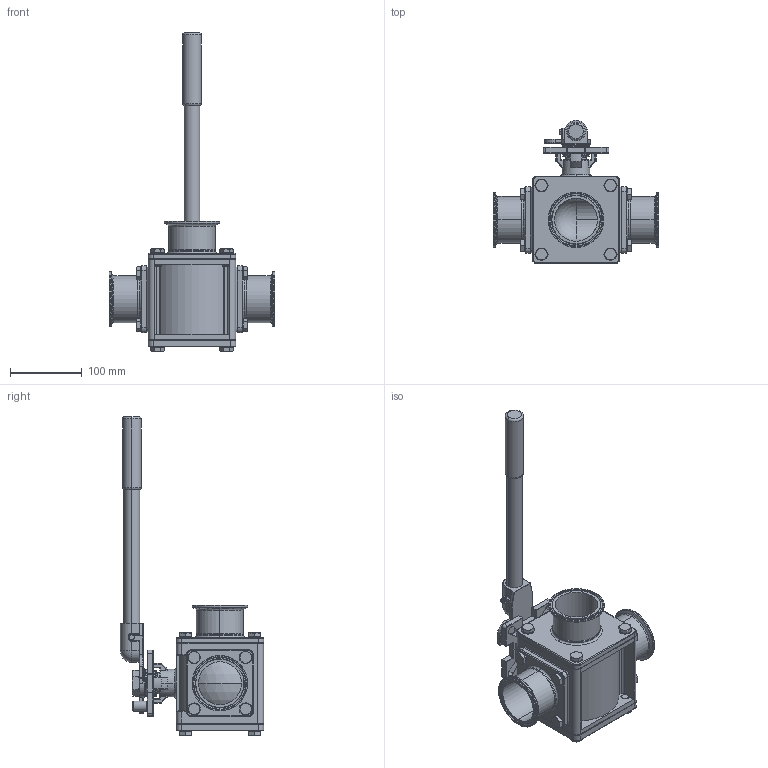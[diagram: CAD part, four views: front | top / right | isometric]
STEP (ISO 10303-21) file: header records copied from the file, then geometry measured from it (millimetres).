
FILE_DESCRIPTION (( 'STEP AP203' ), '1' );
FILE_NAME ('EG93CCC-62.5.STEP', '2019-07-02T02:28:24', ( '' ), ( '' ), 'SwSTEP 2.0', 'SolidWorks 2014', '' );
FILE_SCHEMA (( 'CONFIG_CONTROL_DESIGN' ));
Length unit declared in the file: millimetre
Products named in the file (27): 11.STOP PIN2.5; 2.3WAY-CAP-C-2.5S; 17.LOCKING TAB2.5; 6.THRUST WASHER2.5; 20.SEAT BACK2.5; 22.SEAT-L-2.5; 3.3WAY-BALL-2.5-L; 14.HANDLE2.5-4.0-3; 16.BOLT2.5; 4.SEAT1-2.5; 21.PLAIN WASHER2.5; 1.3WAY-BODY2.5; 9.RING2.5; 7.O-RING2.5; 14.HANDLE2.5-1; 13.STEM2.5; EG93CCC-62.5; 19.3WAY-CAP2.5; 15.SPRING WASHER2.0-2.5; 22.SEAT-R-2.5; 2.3WAY-CAP-C-2.5B; 8.STEM PACKING2.5; 14.HANDLE2.5-2; 12.3WAY-NUT2.5; 10.BEVEL WASHER2.5; 5.GASKET2.5; 18.THINNER NUT2.5
Assembly tree (60 placements, depth 2):
  EG93CCC-62.5
    1.3WAY-BODY2.5
    13.STEM2.5
    6.THRUST WASHER2.5
    7.O-RING2.5
    3.3WAY-BALL-2.5-L
    22.SEAT-L-2.5
    22.SEAT-R-2.5
    4.SEAT1-2.5  x2
    20.SEAT BACK2.5
    5.GASKET2.5  x2
    19.3WAY-CAP2.5
    2.3WAY-CAP-C-2.5B
    2.3WAY-CAP-C-2.5S  x2
    15.SPRING WASHER2.0-2.5  x16
    16.BOLT2.5  x16
    8.STEM PACKING2.5
    9.RING2.5
    10.BEVEL WASHER2.5  x2
    17.LOCKING TAB2.5
    18.THINNER NUT2.5
    21.PLAIN WASHER2.5
    14.HANDLE2.5-1
    14.HANDLE2.5-2
    14.HANDLE2.5-4.0-3
    12.3WAY-NUT2.5
    11.STOP PIN2.5
Bounding box: 231 x 199.86 x 444.7 mm (x, y, z)
Volume: 1783566.2 mm3; surface area: 571735.2 mm2
Topology: 61 solids, 61 shells, 1595 faces, 3577 edges, 2107 vertices
Faces by surface type: cylinder 574, plane 418, cone 270, torus 221, sphere 60, bspline 52
Entity records: 38249 total; most frequent: CARTESIAN_POINT 8939, DIRECTION 5890, ORIENTED_EDGE 5042, EDGE_CURVE 2521, AXIS2_PLACEMENT_3D 2496, VERTEX_POINT 1488, CIRCLE 1376, EDGE_LOOP 1223
